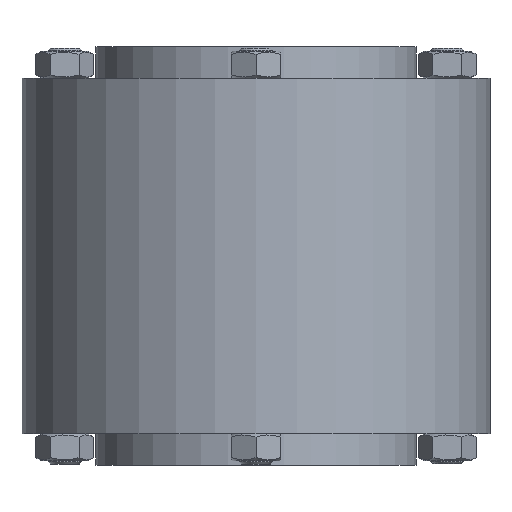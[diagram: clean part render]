
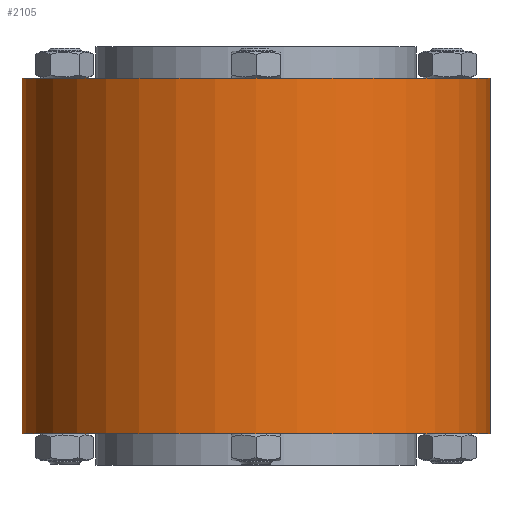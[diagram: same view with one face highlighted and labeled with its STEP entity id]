
A CAD part, front view. The second image highlights one B-rep face of the part: STEP entity #2105.
In plain terms, the highlighted cylindrical face has radius 112.5 mm (diameter 225 mm), a full revolution.
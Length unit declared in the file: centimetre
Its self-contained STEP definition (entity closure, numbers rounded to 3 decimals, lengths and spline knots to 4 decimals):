
#34=CYLINDRICAL_SURFACE('',#2313,11.25);
#362=FACE_BOUND('',#710,.T.);
#520=FACE_OUTER_BOUND('',#709,.T.);
#709=EDGE_LOOP('',(#1689));
#710=EDGE_LOOP('',(#1690));
#882=CIRCLE('',#2314,11.25);
#883=CIRCLE('',#2315,11.25);
#1062=VERTEX_POINT('',#3516);
#1063=VERTEX_POINT('',#3518);
#1296=EDGE_CURVE('',#1062,#1062,#882,.T.);
#1297=EDGE_CURVE('',#1063,#1063,#883,.T.);
#1689=ORIENTED_EDGE('',*,*,#1296,.F.);
#1690=ORIENTED_EDGE('',*,*,#1297,.F.);
#2105=ADVANCED_FACE('',(#520,#362),#34,.T.);
#2313=AXIS2_PLACEMENT_3D('',#3515,#2741,#2742);
#2314=AXIS2_PLACEMENT_3D('',#3517,#2743,#2744);
#2315=AXIS2_PLACEMENT_3D('',#3519,#2745,#2746);
#2741=DIRECTION('center_axis',(0.,0.,
-1.));
#2742=DIRECTION('ref_axis',(0.,-1.,0.));
#2743=DIRECTION('center_axis',(0.,0.,
1.));
#2744=DIRECTION('ref_axis',(0.,-1.,0.));
#2745=DIRECTION('center_axis',(0.,0.,
-1.));
#2746=DIRECTION('ref_axis',(1.,0.,0.));
#3515=CARTESIAN_POINT('Origin',(0.,0.,
-8.125));
#3516=CARTESIAN_POINT('',(-11.25,0.,8.55));
#3517=CARTESIAN_POINT('Origin',(0.,0.,
8.55));
#3518=CARTESIAN_POINT('',(-11.25,0.,-8.55));
#3519=CARTESIAN_POINT('Origin',(0.,0.,
-8.55));
